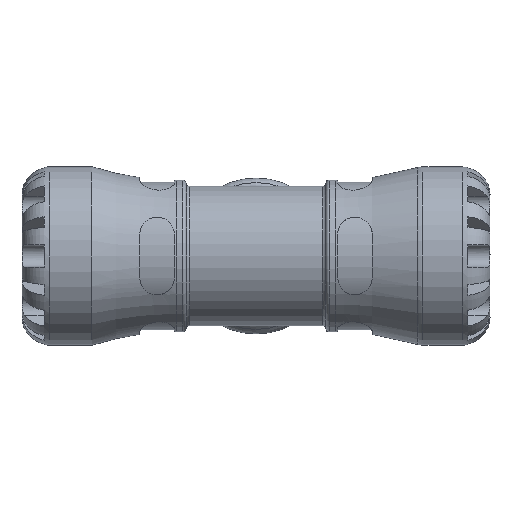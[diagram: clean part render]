
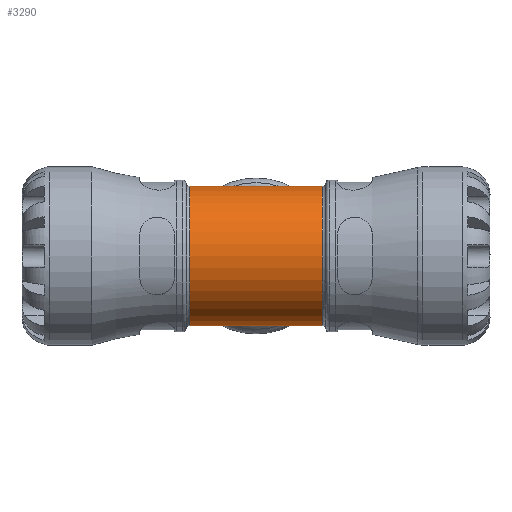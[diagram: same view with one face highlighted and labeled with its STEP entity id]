
A CAD part, front view. The second image highlights one B-rep face of the part: STEP entity #3290.
In plain terms, the highlighted cylindrical face has radius 22.62 mm (diameter 45.24 mm), a partial arc.
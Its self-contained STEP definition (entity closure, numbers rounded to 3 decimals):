
#16=CYLINDRICAL_SURFACE('',#3502,22.62);
#139=B_SPLINE_CURVE_WITH_KNOTS('',3,(#4976,#4977,#4978,#4979,#4980,#4981,
#4982,#4983,#4984,#4985),.UNSPECIFIED.,.F.,.F.,(4,1,1,1,3,4),(-15.283,
-14.685,-13.768,-13.309,-12.85,
-12.85),.UNSPECIFIED.);
#141=B_SPLINE_CURVE_WITH_KNOTS('',3,(#5018,#5019,#5020,#5021,#5022,#5023,
#5024,#5025,#5026),.UNSPECIFIED.,.F.,.F.,(4,1,1,1,1,1,4),(-12.85,
-12.62,-12.391,-11.932,-11.014,
-10.555,-10.417),.UNSPECIFIED.);
#143=B_SPLINE_CURVE_WITH_KNOTS('',3,(#5050,#5051,#5052,#5053,#5054,#5055,
#5056,#5057,#5058,#5059,#5060,#5061,#5062,#5063,#5064),.UNSPECIFIED.,.F.,
 .F.,(4,1,1,1,1,1,1,1,1,1,1,1,4),(-21.707,-21.416,-20.804,
-20.192,-19.887,-19.581,-19.275,
-18.969,-18.663,-18.357,-17.745,
-17.133,-16.842),.UNSPECIFIED.);
#280=FACE_OUTER_BOUND('',#486,.T.);
#486=EDGE_LOOP('',(#2028,#2029,#2030,#2031,#2032));
#728=CIRCLE('',#3498,22.62);
#729=CIRCLE('',#3500,22.62);
#1229=VERTEX_POINT('',#4951);
#1230=VERTEX_POINT('',#4952);
#1231=VERTEX_POINT('',#4975);
#1233=VERTEX_POINT('',#5017);
#1234=VERTEX_POINT('',#5027);
#1540=EDGE_CURVE('',#1229,#1231,#139,.T.);
#1543=EDGE_CURVE('',#1231,#1233,#141,.T.);
#1545=EDGE_CURVE('',#1234,#1230,#143,.T.);
#1547=EDGE_CURVE('',#1230,#1229,#728,.T.);
#1548=EDGE_CURVE('',#1233,#1234,#729,.T.);
#2028=ORIENTED_EDGE('',*,*,#1545,.F.);
#2029=ORIENTED_EDGE('',*,*,#1548,.F.);
#2030=ORIENTED_EDGE('',*,*,#1543,.F.);
#2031=ORIENTED_EDGE('',*,*,#1540,.F.);
#2032=ORIENTED_EDGE('',*,*,#1547,.F.);
#3290=ADVANCED_FACE('',(#280),#16,.T.);
#3498=AXIS2_PLACEMENT_3D('',#5068,#3889,#3890);
#3500=AXIS2_PLACEMENT_3D('',#5070,#3893,#3894);
#3502=AXIS2_PLACEMENT_3D('',#5073,#3897,#3898);
#3889=DIRECTION('center_axis',(1.,0.,0.));
#3890=DIRECTION('ref_axis',(0.,1.,0.));
#3893=DIRECTION('center_axis',(-1.,0.,0.));
#3894=DIRECTION('ref_axis',(0.,1.,0.));
#3897=DIRECTION('center_axis',(1.,0.,0.));
#3898=DIRECTION('ref_axis',(0.,1.,0.));
#4951=CARTESIAN_POINT('',(21.478,21.21,-7.861));
#4952=CARTESIAN_POINT('',(21.478,21.21,7.861));
#4975=CARTESIAN_POINT('',(0.,10.684,-19.938));
#4976=CARTESIAN_POINT('Ctrl Pts',(21.473,21.211,-7.859));
#4977=CARTESIAN_POINT('Ctrl Pts',(20.553,20.534,-9.691));
#4978=CARTESIAN_POINT('Ctrl Pts',(17.481,18.303,-13.853));
#4979=CARTESIAN_POINT('Ctrl Pts',(11.925,14.554,-17.527));
#4980=CARTESIAN_POINT('Ctrl Pts',(5.635,11.48,-19.528));
#4981=CARTESIAN_POINT('Ctrl Pts',(1.893,10.686,-19.937));
#4982=CARTESIAN_POINT('Ctrl Pts',(0.002,10.684,
-19.937));
#4983=CARTESIAN_POINT('Ctrl Pts',(0.001,10.684,
-19.937));
#4984=CARTESIAN_POINT('Ctrl Pts',(0.001,10.684,
-19.937));
#4985=CARTESIAN_POINT('Ctrl Pts',(0.,10.684,-19.937));
#5017=CARTESIAN_POINT('',(-21.478,21.21,-7.861));
#5018=CARTESIAN_POINT('Ctrl Pts',(0.,10.682,
-19.938));
#5019=CARTESIAN_POINT('Ctrl Pts',(-0.945,10.681,-19.939));
#5020=CARTESIAN_POINT('Ctrl Pts',(-2.846,10.876,-19.837));
#5021=CARTESIAN_POINT('Ctrl Pts',(-6.411,11.867,-19.278));
#5022=CARTESIAN_POINT('Ctrl Pts',(-11.938,14.545,-17.531));
#5023=CARTESIAN_POINT('Ctrl Pts',(-17.089,18.041,-14.113));
#5024=CARTESIAN_POINT('Ctrl Pts',(-20.277,20.326,-10.076));
#5025=CARTESIAN_POINT('Ctrl Pts',(-21.266,21.052,-8.286));
#5026=CARTESIAN_POINT('Ctrl Pts',(-21.479,21.21,-7.861));
#5027=CARTESIAN_POINT('',(-21.478,21.21,7.861));
#5050=CARTESIAN_POINT('Ctrl Pts',(-21.478,21.21,7.86));
#5051=CARTESIAN_POINT('Ctrl Pts',(-21.029,20.878,8.753));
#5052=CARTESIAN_POINT('Ctrl Pts',(-19.422,19.703,11.392));
#5053=CARTESIAN_POINT('Ctrl Pts',(-15.826,17.16,15.016));
#5054=CARTESIAN_POINT('Ctrl Pts',(-11.342,14.311,17.607));
#5055=CARTESIAN_POINT('Ctrl Pts',(-7.213,12.253,19.039));
#5056=CARTESIAN_POINT('Ctrl Pts',(-3.786,11.028,19.758));
#5057=CARTESIAN_POINT('Ctrl Pts',(0.,10.51,
20.028));
#5058=CARTESIAN_POINT('Ctrl Pts',(3.784,11.03,19.758));
#5059=CARTESIAN_POINT('Ctrl Pts',(7.214,12.252,19.039));
#5060=CARTESIAN_POINT('Ctrl Pts',(11.339,14.311,17.607));
#5061=CARTESIAN_POINT('Ctrl Pts',(15.827,17.16,15.018));
#5062=CARTESIAN_POINT('Ctrl Pts',(19.419,19.7,11.392));
#5063=CARTESIAN_POINT('Ctrl Pts',(21.029,20.878,8.754));
#5064=CARTESIAN_POINT('Ctrl Pts',(21.479,21.21,7.861));
#5068=CARTESIAN_POINT('Origin',(21.478,0.,0.));
#5070=CARTESIAN_POINT('Origin',(-21.478,0.,0.));
#5073=CARTESIAN_POINT('Origin',(11.31,0.,0.));
